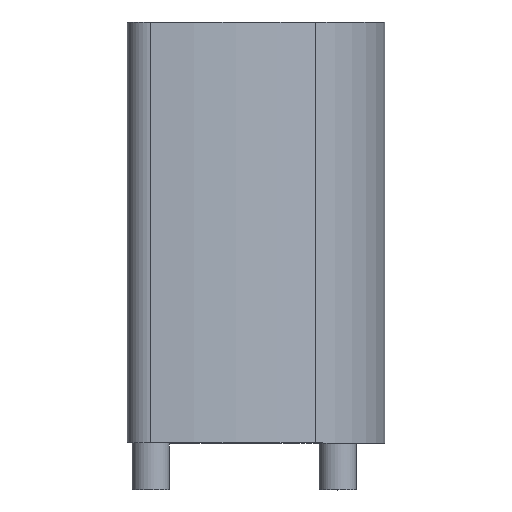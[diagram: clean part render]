
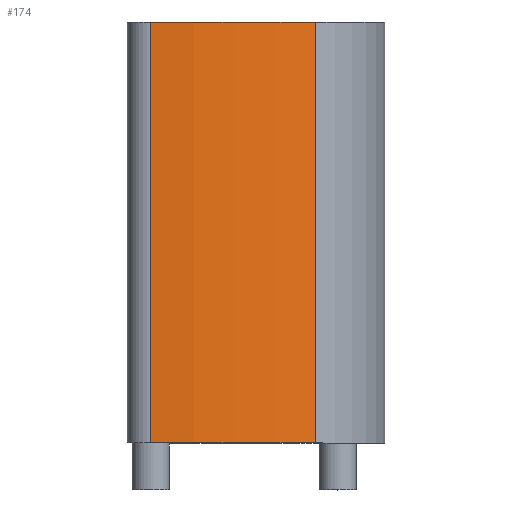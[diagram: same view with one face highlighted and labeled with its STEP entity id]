
A CAD part, top view. The second image highlights one B-rep face of the part: STEP entity #174.
In plain terms, the highlighted cylindrical face has radius 70.49 mm (diameter 140.981 mm), a partial arc.
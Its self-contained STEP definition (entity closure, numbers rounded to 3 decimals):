
#16=LINE('',#296,#22);
#17=LINE('',#302,#23);
#22=VECTOR('',#236,10.);
#23=VECTOR('',#243,10.);
#40=FACE_OUTER_BOUND('',#54,.T.);
#54=EDGE_LOOP('',(#127,#128,#129,#130));
#69=CIRCLE('',#195,70.49);
#70=CIRCLE('',#196,70.49);
#83=VERTEX_POINT('',#289);
#86=VERTEX_POINT('',#294);
#87=VERTEX_POINT('',#298);
#88=VERTEX_POINT('',#300);
#102=EDGE_CURVE('',#83,#86,#16,.T.);
#103=EDGE_CURVE('',#87,#83,#69,.T.);
#104=EDGE_CURVE('',#88,#86,#70,.T.);
#105=EDGE_CURVE('',#87,#88,#17,.T.);
#127=ORIENTED_EDGE('',*,*,#103,.T.);
#128=ORIENTED_EDGE('',*,*,#102,.T.);
#129=ORIENTED_EDGE('',*,*,#104,.F.);
#130=ORIENTED_EDGE('',*,*,#105,.F.);
#164=CYLINDRICAL_SURFACE('',#194,70.49);
#174=ADVANCED_FACE('',(#40),#164,.T.);
#194=AXIS2_PLACEMENT_3D('',#297,#237,#238);
#195=AXIS2_PLACEMENT_3D('',#299,#239,#240);
#196=AXIS2_PLACEMENT_3D('',#301,#241,#242);
#236=DIRECTION('',(0.,1.,0.));
#237=DIRECTION('center_axis',(0.,1.,0.));
#238=DIRECTION('ref_axis',(0.,0.,1.));
#239=DIRECTION('center_axis',(0.,1.,0.));
#240=DIRECTION('ref_axis',(0.,0.,1.));
#241=DIRECTION('center_axis',(0.,1.,0.));
#242=DIRECTION('ref_axis',(0.,0.,1.));
#243=DIRECTION('',(0.,1.,0.));
#289=CARTESIAN_POINT('',(-4.755,0.,25.556));
#294=CARTESIAN_POINT('',(-4.755,90.,25.556));
#296=CARTESIAN_POINT('',(-4.755,0.,25.556));
#297=CARTESIAN_POINT('Origin',(-40.,0.,-35.49));
#298=CARTESIAN_POINT('',(-40.,0.,35.));
#299=CARTESIAN_POINT('Origin',(-40.,0.,-35.49));
#300=CARTESIAN_POINT('',(-40.,90.,35.));
#301=CARTESIAN_POINT('Origin',(-40.,90.,-35.49));
#302=CARTESIAN_POINT('',(-40.,0.,35.));
